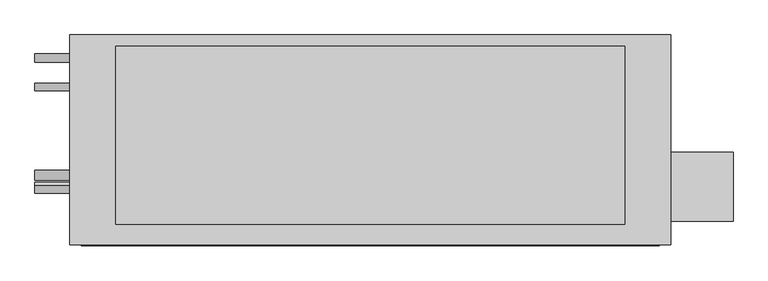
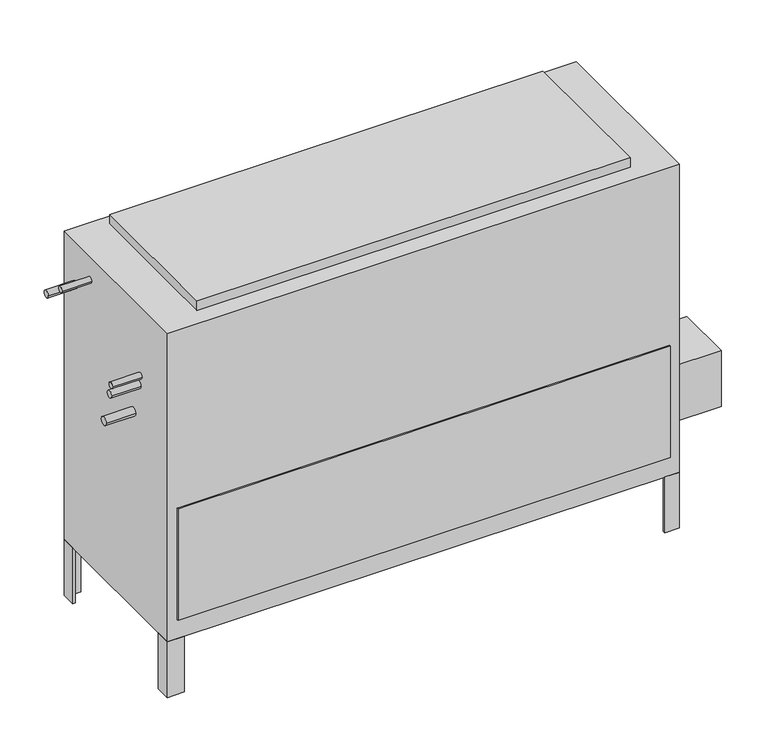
"""IFC4 building model written with IfcOpenShell, lengths in millimetres: proxy geometry, Concealed_High_Capacity_Vertical_Fan_Coil_Unit_-_42DDA_-_CARRIER_-_4-Pipe_LH_2022 : Size 18 - 277v/60Hz/1Ph - 4/2 Coil."""

from ifc_helpers import new_model, si_unit, point, frame, frame_2d, origin, origin_with_axes, place, context, project, spatial, polyline, circle_curve, trimmed, segment, composite_curve, outline, extrude, source, transform, mapped, element, save


def mechanical_equipment_1a85bbc4(model_context):
    return source(origin(), model_context, "Body", "SweptSolid", [
        extrude(outline(polyline([(949.325, -265.1125), (949.325, -417.5125), (812.8, -417.5125), (812.8, -265.1125), (949.325, -265.1125)])), frame((0.0, 0.0, 101.6), z_axis=(0.0, 0.0, 1.0), x_axis=(1.0, 0.0, 0.0)), (0.0, 0.0, 1.0), 152.4),
        extrude(outline(polyline([(812.8, -46.0375), (806.45, -46.0375), (806.45, -14.2875), (774.7, -14.2875), (774.7, -7.9375), (812.8, -7.9375), (812.8, -46.0375)])), frame((0.0, 0.0, -152.4), z_axis=(0.0, 0.0, 1.0), x_axis=(1.0, 0.0, 0.0)), (0.0, 0.0, 1.0), 152.4),
        extrude(outline(polyline([(-469.9, -7.9375), (-469.9, -14.2875), (-501.65, -14.2875), (-501.65, -46.0375), (-508.0, -46.0375), (-508.0, -7.9375), (-469.9, -7.9375)])), frame((0.0, 0.0, -152.4), z_axis=(0.0, 0.0, 1.0), x_axis=(1.0, 0.0, 0.0)), (0.0, 0.0, 1.0), 152.4),
        extrude(outline(polyline([(774.7, -468.3125), (774.7, -461.9625), (806.45, -461.9625), (806.45, -430.2125), (812.8, -430.2125), (812.8, -468.3125), (774.7, -468.3125)])), frame((0.0, 0.0, -152.4), z_axis=(0.0, 0.0, 1.0), x_axis=(1.0, 0.0, 0.0)), (0.0, 0.0, 1.0), 152.4),
        extrude(outline(polyline([(-508.0, -428.1199163), (-501.65, -428.1199163), (-501.65, -461.9625), (-464.5318533, -461.9625), (-464.5318533, -468.3125), (-508.0, -468.3125), (-508.0, -428.1199163)])), frame((0.0, 0.0, -152.4), z_axis=(0.0, 0.0, 1.0), x_axis=(1.0, 0.0, 0.0)), (0.0, 0.0, 1.0), 152.4),
        extrude(outline(polyline([(711.2, -33.3375), (711.2, -423.8625), (-406.4, -423.8625), (-406.4, -33.3375), (711.2, -33.3375)])), frame((0.0, 0.0, 841.375), z_axis=(0.0, 0.0, 1.0), x_axis=(1.0, 0.0, 0.0)), (0.0, 0.0, 1.0), 25.4),
        extrude(outline(polyline([(787.4, -471.4875), (-482.6, -471.4875), (-482.6, -468.3125), (787.4, -468.3125), (787.4, -471.4875)])), frame((0.0, 0.0, 50.8), z_axis=(0.0, 0.0, 1.0), x_axis=(1.0, 0.0, 0.0)), (0.0, 0.0, 1.0), 304.8),
        extrude(outline(composite_curve([segment(trimmed(circle_curve(frame_2d((-122.2375, 777.875)), 7.9375), [point((-130.175, 777.875))], [point((-114.3, 777.875))], False, "CARTESIAN"), True, "CONTINUOUS"), segment(trimmed(circle_curve(frame_2d((-122.2375, 777.875)), 7.9375), [point((-114.3, 777.875))], [point((-130.175, 777.875))], False, "CARTESIAN"), True, "CONTINUOUS")], self_intersect=False)), frame((-584.2, 0.0, 0.0), z_axis=(1.0, 0.0, 0.0), x_axis=(0.0, 1.0, 0.0)), (0.0, 0.0, 1.0), 76.2),
        extrude(outline(composite_curve([segment(trimmed(circle_curve(frame_2d((-347.3848135, 653.2230057)), 7.9375), [point((-355.3223135, 653.2230057))], [point((-339.4473135, 653.2230057))], False, "CARTESIAN"), True, "CONTINUOUS"), segment(trimmed(circle_curve(frame_2d((-347.3848135, 653.2230057)), 7.9375), [point((-339.4473135, 653.2230057))], [point((-355.3223135, 653.2230057))], False, "CARTESIAN"), True, "CONTINUOUS")], self_intersect=False)), frame((-584.2, 0.0, 0.0), z_axis=(1.0, 0.0, 0.0), x_axis=(0.0, 1.0, 0.0)), (0.0, 0.0, 1.0), 76.2),
        extrude(outline(composite_curve([segment(trimmed(circle_curve(frame_2d((-58.7375, 727.075)), 9.525), [point((-68.2625, 727.075))], [point((-49.2125, 727.075))], False, "CARTESIAN"), True, "CONTINUOUS"), segment(trimmed(circle_curve(frame_2d((-58.7375, 727.075)), 9.525), [point((-49.2125, 727.075))], [point((-68.2625, 727.075))], False, "CARTESIAN"), True, "CONTINUOUS")], self_intersect=False)), frame((-584.2, 0.0, 0.0), z_axis=(1.0, 0.0, 0.0), x_axis=(0.0, 1.0, 0.0)), (0.0, 0.0, 1.0), 76.2),
        extrude(outline(composite_curve([segment(trimmed(circle_curve(frame_2d((-341.3125, 625.475)), 9.525), [point((-350.8375, 625.475))], [point((-331.7875, 625.475))], False, "CARTESIAN"), True, "CONTINUOUS"), segment(trimmed(circle_curve(frame_2d((-341.3125, 625.475)), 9.525), [point((-331.7875, 625.475))], [point((-350.8375, 625.475))], False, "CARTESIAN"), True, "CONTINUOUS")], self_intersect=False)), frame((-584.2, 0.0, 0.0), z_axis=(1.0, 0.0, 0.0), x_axis=(0.0, 1.0, 0.0)), (0.0, 0.0, 1.0), 76.2),
        extrude(outline(composite_curve([segment(trimmed(circle_curve(frame_2d((-315.9125, 536.575)), 11.1125), [point((-327.025, 536.575))], [point((-304.8, 536.575))], False, "CARTESIAN"), True, "CONTINUOUS"), segment(trimmed(circle_curve(frame_2d((-315.9125, 536.575)), 11.1125), [point((-304.8, 536.575))], [point((-327.025, 536.575))], False, "CARTESIAN"), True, "CONTINUOUS")], self_intersect=False)), frame((-584.2, 0.0, 0.0), z_axis=(1.0, 0.0, 0.0), x_axis=(0.0, 1.0, 0.0)), (0.0, 0.0, 1.0), 76.2),
        extrude(outline(polyline([(812.8, -7.9375), (812.8, -468.3125), (-508.0, -468.3125), (-508.0, -7.9375), (812.8, -7.9375)])), origin_with_axes(), (0.0, 0.0, 1.0), 841.375),
    ])


if __name__ == "__main__":
    model = new_model("IFC4")
    model_context = context("Model", 3, world=origin())
    ifc_project = project(units=[si_unit("LENGTHUNIT", "METRE", prefix="MILLI")], contexts=[model_context])
    site = spatial("IfcSite", under=ifc_project)
    building = spatial("IfcBuilding", under=site)
    placement = place(None, origin())
    mechanical_equipment_shape = mechanical_equipment_1a85bbc4(model_context)
    element("IfcBuildingElementProxy", 1, Name="Concealed_High_Capacity_Vertical_Fan_Coil_Unit_-_42DDA_-_CARRIER_-_4-Pipe_LH_2022 : Size 18 - 277v/60Hz/1Ph - 4/2 Coil", ObjectType="Concealed_High_Capacity_Vertical_Fan_Coil_Unit_-_42DDA_-_CARRIER_-_4-Pipe_LH_2022 : Size 18 - 277v/60Hz/1Ph - 4/2 Coil", at=placement, inside=building, context=model_context, shape_type="MappedRepresentation", body=[
        mapped(mechanical_equipment_shape, transform((0.0, 0.0, 0.0), x_axis=(1.0, 0.0, 0.0), y_axis=(0.0, 1.0, 0.0), z_axis=(0.0, 0.0, 1.0))),
    ])
    save(model, "model.ifc")
